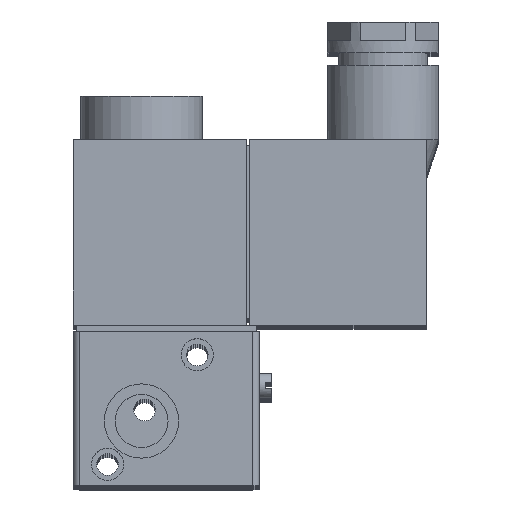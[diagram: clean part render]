
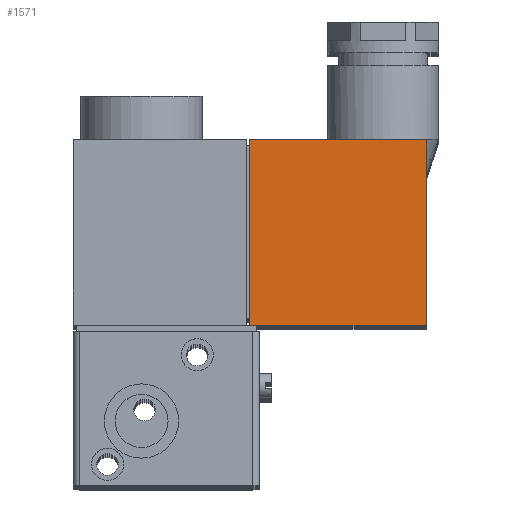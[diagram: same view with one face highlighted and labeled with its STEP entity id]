
A CAD part, top view. The second image highlights one B-rep face of the part: STEP entity #1571.
In plain terms, the highlighted planar face has unit normal (0, 0, 1).
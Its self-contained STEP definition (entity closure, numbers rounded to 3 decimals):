
#275=FACE_OUTER_BOUND('',#388,.T.);
#388=EDGE_LOOP('',(#1330,#1331,#1332,#1333));
#474=LINE('',#2626,#595);
#504=LINE('',#2690,#625);
#506=LINE('',#2696,#627);
#507=LINE('',#2698,#628);
#595=VECTOR('',#2132,1000.);
#625=VECTOR('',#2186,1000.);
#627=VECTOR('',#2194,1000.);
#628=VECTOR('',#2197,1000.);
#804=VERTEX_POINT('',#2623);
#805=VERTEX_POINT('',#2625);
#825=VERTEX_POINT('',#2684);
#827=VERTEX_POINT('',#2688);
#968=EDGE_CURVE('',#804,#805,#474,.T.);
#999=EDGE_CURVE('',#825,#827,#504,.T.);
#1003=EDGE_CURVE('',#804,#825,#506,.T.);
#1004=EDGE_CURVE('',#805,#827,#507,.T.);
#1330=ORIENTED_EDGE('',*,*,#999,.T.);
#1331=ORIENTED_EDGE('',*,*,#1004,.F.);
#1332=ORIENTED_EDGE('',*,*,#968,.F.);
#1333=ORIENTED_EDGE('',*,*,#1003,.T.);
#1487=PLANE('',#1786);
#1571=ADVANCED_FACE('',(#275),#1487,.F.);
#1786=AXIS2_PLACEMENT_3D('',#2697,#2195,#2196);
#2132=DIRECTION('',(0.,-1.,0.));
#2186=DIRECTION('',(0.,-1.,0.));
#2194=DIRECTION('',(-1.,0.,0.));
#2195=DIRECTION('center_axis',(0.,0.,-1.));
#2196=DIRECTION('ref_axis',(-1.,0.,0.));
#2197=DIRECTION('',(-1.,0.,0.));
#2623=CARTESIAN_POINT('',(57.,30.,22.));
#2625=CARTESIAN_POINT('',(57.,0.,22.));
#2626=CARTESIAN_POINT('',(57.,30.,22.));
#2684=CARTESIAN_POINT('',(28.5,30.,22.));
#2688=CARTESIAN_POINT('',(28.5,0.,22.));
#2690=CARTESIAN_POINT('',(28.5,30.,22.));
#2696=CARTESIAN_POINT('',(57.,30.,22.));
#2697=CARTESIAN_POINT('Origin',(57.,30.,22.));
#2698=CARTESIAN_POINT('',(57.,0.,22.));
